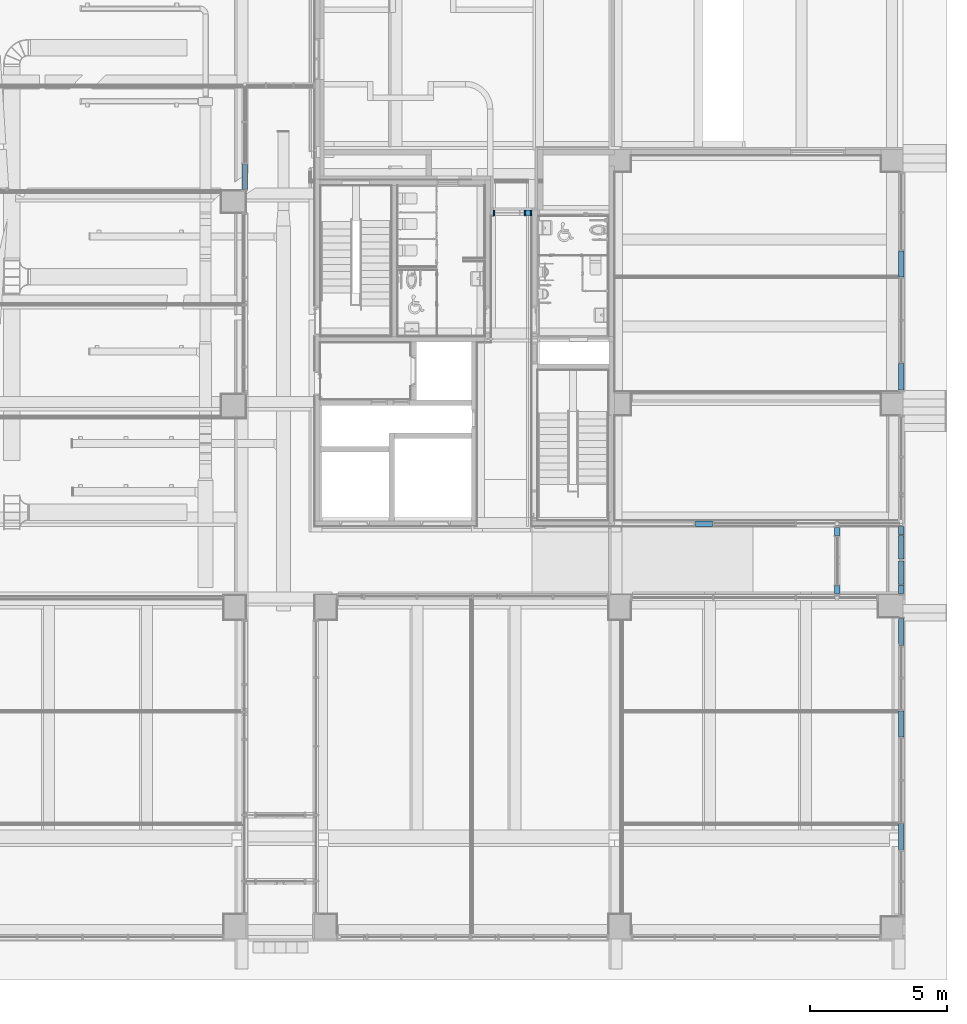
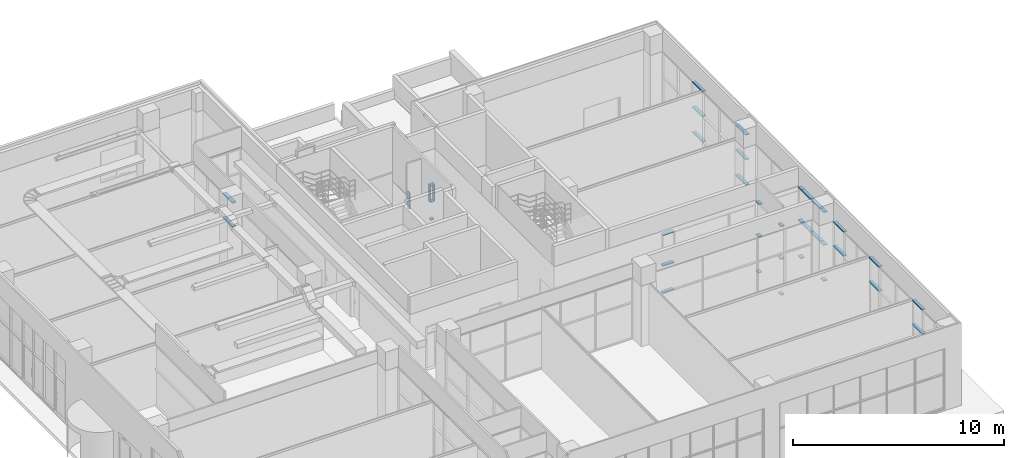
# One storey, part 19 of 100: 39 members, 7 elements without a shape of their own.
"""IFC2X3 building model written with IfcOpenShell, lengths in millimetres."""

from ifc_helpers import new_model, entity, si_unit, converted_unit, derived_unit, direction, frame, origin, origin_2d_with_axis, place, context, subcontext, project, spatial, rectangle, extrude, source, transform, mapped, material, type_object, type_shapes, element, aggregate, save


model = new_model("IFC2X3")

# Units and contexts
model_context = context("Model", 3, precision=0.01, world=origin(), true_north=direction((6.123031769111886e-17, 1.0)))
body_context = subcontext(model_context, "Body", "Model", "MODEL_VIEW")
ifc_project = project(units=[si_unit("LENGTHUNIT", "METRE", prefix="MILLI"), si_unit("AREAUNIT", "SQUARE_METRE"), si_unit("VOLUMEUNIT", "CUBIC_METRE"), converted_unit("PLANEANGLEUNIT", "DEGREE", entity("IfcRatioMeasure", 0.017453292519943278), si_unit("PLANEANGLEUNIT", "RADIAN"), dimensions=[0, 0, 0, 0, 0, 0, 0]), si_unit("MASSUNIT", "GRAM", prefix="KILO"), derived_unit("MASSDENSITYUNIT", [(si_unit("MASSUNIT", "GRAM", prefix="KILO"), 1), (si_unit("LENGTHUNIT", "METRE"), -3)]), derived_unit("MOMENTOFINERTIAUNIT", [(si_unit("LENGTHUNIT", "METRE"), 4)]), si_unit("TIMEUNIT", "SECOND"), si_unit("FREQUENCYUNIT", "HERTZ"), si_unit("THERMODYNAMICTEMPERATUREUNIT", "DEGREE_CELSIUS"), derived_unit("THERMALTRANSMITTANCEUNIT", [(si_unit("MASSUNIT", "GRAM", prefix="KILO"), 1), (si_unit("THERMODYNAMICTEMPERATUREUNIT", "KELVIN"), -1), (si_unit("TIMEUNIT", "SECOND"), -3)]), derived_unit("VOLUMETRICFLOWRATEUNIT", [(si_unit("LENGTHUNIT", "METRE"), 3), (si_unit("TIMEUNIT", "SECOND"), -1)]), derived_unit("MASSFLOWRATEUNIT", [(si_unit("MASSUNIT", "GRAM", prefix="KILO"), 1), (si_unit("TIMEUNIT", "SECOND"), -1)]), derived_unit("ROTATIONALFREQUENCYUNIT", [(si_unit("TIMEUNIT", "SECOND"), -1)]), si_unit("ELECTRICCURRENTUNIT", "AMPERE"), si_unit("ELECTRICVOLTAGEUNIT", "VOLT"), si_unit("POWERUNIT", "WATT"), si_unit("FORCEUNIT", "NEWTON", prefix="KILO"), si_unit("ILLUMINANCEUNIT", "LUX"), si_unit("LUMINOUSFLUXUNIT", "LUMEN"), si_unit("LUMINOUSINTENSITYUNIT", "CANDELA"), derived_unit("USERDEFINED", [(si_unit("MASSUNIT", "GRAM", prefix="KILO"), -1), (si_unit("LENGTHUNIT", "METRE"), -2), (si_unit("TIMEUNIT", "SECOND"), 3), (si_unit("LUMINOUSFLUXUNIT", "LUMEN"), 1)]), derived_unit("SOUNDPOWERUNIT", [(si_unit("MASSUNIT", "GRAM", prefix="KILO"), 1), (si_unit("LENGTHUNIT", "METRE"), 2), (si_unit("TIMEUNIT", "SECOND"), -3)]), derived_unit("SOUNDPRESSUREUNIT", [(si_unit("MASSUNIT", "GRAM", prefix="KILO"), 1), (si_unit("LENGTHUNIT", "METRE"), -1), (si_unit("TIMEUNIT", "SECOND"), -2)]), derived_unit("LINEARVELOCITYUNIT", [(si_unit("LENGTHUNIT", "METRE"), 1), (si_unit("TIMEUNIT", "SECOND"), -1)]), si_unit("PRESSUREUNIT", "PASCAL"), derived_unit("USERDEFINED", [(si_unit("LENGTHUNIT", "METRE"), -2), (si_unit("MASSUNIT", "GRAM", prefix="KILO"), 1), (si_unit("TIMEUNIT", "SECOND"), -2)]), derived_unit("LINEARFORCEUNIT", [(si_unit("MASSUNIT", "GRAM", prefix="KILO"), 1), (si_unit("LENGTHUNIT", "METRE"), 1), (si_unit("TIMEUNIT", "SECOND"), -2), (si_unit("LENGTHUNIT", "METRE"), -1)]), derived_unit("PLANARFORCEUNIT", [(si_unit("MASSUNIT", "GRAM", prefix="KILO"), 1), (si_unit("LENGTHUNIT", "METRE"), 1), (si_unit("TIMEUNIT", "SECOND"), -2), (si_unit("LENGTHUNIT", "METRE"), -2)])], contexts=[model_context])

# Site, building, storey
site_placement = place(None, frame((-14167.972527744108, -657.2125860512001, 0.0)))
site = spatial("IfcSite", under=ifc_project, at=site_placement, Name="Default", CompositionType="ELEMENT")
building_placement = place(site_placement, origin())
building = spatial("IfcBuilding", under=site, at=building_placement, Name="Sample Building", CompositionType="ELEMENT")
storey_placement = place(building_placement, origin())
storey = spatial("IfcBuildingStorey", under=building, at=storey_placement, Name="지상 1층", CompositionType="ELEMENT", Elevation=0.0)

# Curtain wall, member
curtain_wall_type = type_object("IfcCurtainWallType", Name="커튼월:CW112-스테인리스 스틸 커튼월", PredefinedType="NOTDEFINED")
curtain_wall_1_placement = place(storey_placement, origin())
curtain_wall_1 = element("IfcCurtainWall", 1, at=curtain_wall_1_placement, inside=storey, type_object=curtain_wall_type, Name="커튼월:CW112-스테인리스 스틸 커튼월", ObjectType="커튼월:CW112-스테인리스 스틸 커튼월")
ifc_material = material(Name="<Unnamed>")
member_type_1 = type_object("IfcMemberType", Name="직사각형 멀리언:CW200-직사각형 멀리언 50x200mm", PredefinedType="MULLION", material=ifc_material)
shared_shape_1 = source(origin(), body_context, "Body", "SweptSolid", [
    extrude(rectangle(XDim=200.0, YDim=50.0, at=origin_2d_with_axis()), frame((-25.0, 0.0, -925.0), z_axis=(0.0, 0.0, 1.0), x_axis=(0.0, -1.0, 0.0)), (0.0, 0.0, 1.0), 924.9999999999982),
])
type_shapes(member_type_1, [shared_shape_1])
member_1_placement = place(curtain_wall_1_placement, frame((27522.955141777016, 28732.21230799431, 3600.0), z_axis=(0.0, 1.0, 0.0), x_axis=(0.0, 0.0, 1.0)))
member_1 = element("IfcMember", 2, at=member_1_placement, type_object=member_type_1, material=ifc_material, Name="직사각형 멀리언:CW200-직사각형 멀리언 50x200mm", ObjectType="직사각형 멀리언:CW200-직사각형 멀리언 50x200mm", context=body_context, shape_type="MappedRepresentation", body=[
    mapped(shared_shape_1, transform((0.0, 0.0, 0.0), scale=1.0)),
])

# Curtain wall, members
curtain_wall_2_placement = place(storey_placement, origin())
curtain_wall_2 = element("IfcCurtainWall", 3, at=curtain_wall_2_placement, inside=storey, type_object=curtain_wall_type, Name="커튼월:CW112-스테인리스 스틸 커튼월", ObjectType="커튼월:CW112-스테인리스 스틸 커튼월")
member_type_2 = type_object("IfcMemberType", Name="직사각형 멀리언:CW200-직사각형 멀리언 50x200mm", PredefinedType="MULLION", material=ifc_material)
shared_shape_2 = source(origin(), body_context, "Body", "SweptSolid", [
    extrude(rectangle(XDim=200.0, YDim=50.0, at=origin_2d_with_axis()), frame((-25.0, 0.0, -950.0), z_axis=(0.0, 0.0, 1.0), x_axis=(0.0, -1.0, 0.0)), (0.0, 0.0, 1.0), 949.9999999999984),
])
type_shapes(member_type_2, [shared_shape_2])
member_2_placement = place(curtain_wall_2_placement, frame((51405.46382893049, 4742.177624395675, 3600.0), z_axis=(0.0, 1.0, 0.0), x_axis=(0.0, 0.0, 1.0)))
member_2 = element("IfcMember", 4, at=member_2_placement, type_object=member_type_2, material=ifc_material, Name="직사각형 멀리언:CW200-직사각형 멀리언 50x200mm", ObjectType="직사각형 멀리언:CW200-직사각형 멀리언 50x200mm", context=body_context, shape_type="MappedRepresentation", body=[
    mapped(shared_shape_2, transform((0.0, 0.0, 0.0), scale=1.0)),
])
member_3_placement = place(curtain_wall_2_placement, frame((51405.46382893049, 8842.177624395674, 3600.0), z_axis=(0.0, 1.0, 0.0), x_axis=(0.0, 0.0, 1.0)))
member_3 = element("IfcMember", 5, at=member_3_placement, type_object=member_type_2, material=ifc_material, Name="직사각형 멀리언:CW200-직사각형 멀리언 50x200mm", ObjectType="직사각형 멀리언:CW200-직사각형 멀리언 50x200mm", context=body_context, shape_type="MappedRepresentation", body=[
    mapped(shared_shape_2, transform((0.0, 0.0, 0.0), scale=1.0)),
])

# Curtain wall, member
curtain_wall_3_placement = place(storey_placement, origin())
curtain_wall_3 = element("IfcCurtainWall", 6, at=curtain_wall_3_placement, inside=storey, type_object=curtain_wall_type, Name="커튼월:CW112-스테인리스 스틸 커튼월", ObjectType="커튼월:CW112-스테인리스 스틸 커튼월")
member_4_placement = place(curtain_wall_3_placement, frame((51405.48121489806, 25572.177712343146, 3600.0), z_axis=(0.0, 1.0, 0.0), x_axis=(0.0, 0.0, 1.0)))
member_4 = element("IfcMember", 7, at=member_4_placement, type_object=member_type_2, material=ifc_material, Name="직사각형 멀리언:CW200-직사각형 멀리언 50x200mm", ObjectType="직사각형 멀리언:CW200-직사각형 멀리언 50x200mm", context=body_context, shape_type="MappedRepresentation", body=[
    mapped(shared_shape_2, transform((0.0, 0.0, 0.0), scale=1.0)),
])

# Member
member_type_3 = type_object("IfcMemberType", Name="직사각형 멀리언:CW200-직사각형 멀리언 50x200mm", PredefinedType="MULLION", material=ifc_material)
shared_shape_3 = source(origin(), body_context, "Body", "SweptSolid", [
    extrude(rectangle(XDim=200.0, YDim=50.0, at=origin_2d_with_axis()), frame((0.0, 0.0, -950.0), z_axis=(0.0, 0.0, 1.0), x_axis=(0.0, -1.0, 0.0)), (0.0, 0.0, 1.0), 949.9999999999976),
])
type_shapes(member_type_3, [shared_shape_3])
member_5_placement = place(curtain_wall_2_placement, frame((51405.46382893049, 4742.177624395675, 2180.0), z_axis=(0.0, 1.0, 0.0), x_axis=(0.0, 0.0, 1.0)))
member_5 = element("IfcMember", 8, at=member_5_placement, type_object=member_type_3, material=ifc_material, Name="직사각형 멀리언:CW200-직사각형 멀리언 50x200mm", ObjectType="직사각형 멀리언:CW200-직사각형 멀리언 50x200mm", context=body_context, shape_type="MappedRepresentation", body=[
    mapped(shared_shape_3, transform((0.0, 0.0, 0.0), scale=1.0)),
])

member_6_placement = place(curtain_wall_2_placement, frame((51405.46382893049, 8842.177624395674, 2180.0), z_axis=(0.0, 1.0, 0.0), x_axis=(0.0, 0.0, 1.0)))
member_6 = element("IfcMember", 9, at=member_6_placement, type_object=member_type_3, material=ifc_material, Name="직사각형 멀리언:CW200-직사각형 멀리언 50x200mm", ObjectType="직사각형 멀리언:CW200-직사각형 멀리언 50x200mm", context=body_context, shape_type="MappedRepresentation", body=[
    mapped(shared_shape_3, transform((0.0, 0.0, 0.0), scale=1.0)),
])

member_7_placement = place(curtain_wall_3_placement, frame((51405.48121489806, 25572.177712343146, 680.0), z_axis=(0.0, 1.0, 0.0), x_axis=(0.0, 0.0, 1.0)))
member_7 = element("IfcMember", 10, at=member_7_placement, type_object=member_type_3, material=ifc_material, Name="직사각형 멀리언:CW200-직사각형 멀리언 50x200mm", ObjectType="직사각형 멀리언:CW200-직사각형 멀리언 50x200mm", context=body_context, shape_type="MappedRepresentation", body=[
    mapped(shared_shape_3, transform((0.0, 0.0, 0.0), scale=1.0)),
])

member_8_placement = place(curtain_wall_3_placement, frame((51405.48121489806, 25572.177712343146, 2140.0), z_axis=(0.0, 1.0, 0.0), x_axis=(0.0, 0.0, 1.0)))
member_8 = element("IfcMember", 11, at=member_8_placement, type_object=member_type_3, material=ifc_material, Name="직사각형 멀리언:CW200-직사각형 멀리언 50x200mm", ObjectType="직사각형 멀리언:CW200-직사각형 멀리언 50x200mm", context=body_context, shape_type="MappedRepresentation", body=[
    mapped(shared_shape_3, transform((0.0, 0.0, 0.0), scale=1.0)),
])

member_type_4 = type_object("IfcMemberType", Name="직사각형 멀리언:CW200-직사각형 멀리언 50x200mm", PredefinedType="MULLION", material=ifc_material)
shared_shape_4 = source(origin(), body_context, "Body", "SweptSolid", [
    extrude(rectangle(XDim=200.0, YDim=50.0, at=origin_2d_with_axis()), frame((0.0, 0.0, -925.0), z_axis=(0.0, 0.0, 1.0), x_axis=(0.0, -1.0, 0.0)), (0.0, 0.0, 1.0), 924.9999999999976),
])
type_shapes(member_type_4, [shared_shape_4])
member_9_placement = place(curtain_wall_1_placement, frame((27522.955141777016, 28732.21230799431, 2180.0), z_axis=(0.0, 1.0, 0.0), x_axis=(0.0, 0.0, 1.0)))
member_9 = element("IfcMember", 12, at=member_9_placement, type_object=member_type_4, material=ifc_material, Name="직사각형 멀리언:CW200-직사각형 멀리언 50x200mm", ObjectType="직사각형 멀리언:CW200-직사각형 멀리언 50x200mm", context=body_context, shape_type="MappedRepresentation", body=[
    mapped(shared_shape_4, transform((0.0, 0.0, 0.0), scale=1.0)),
])

aggregate(curtain_wall_1, [member_1, member_9])

member_type_5 = type_object("IfcMemberType", Name="직사각형 멀리언:CW200-직사각형 멀리언 50x200mm", PredefinedType="MULLION", material=ifc_material)
shared_shape_5 = source(origin(), body_context, "Body", "SweptSolid", [
    extrude(rectangle(XDim=200.0, YDim=50.0, at=origin_2d_with_axis()), frame((0.0, 0.0, -975.0), z_axis=(0.0, 0.0, 1.0), x_axis=(0.0, -1.0, 0.0)), (0.0, 0.0, 1.0), 975.0000000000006),
])
type_shapes(member_type_5, [shared_shape_5])
member_10_placement = place(curtain_wall_2_placement, frame((51405.4638289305, 12207.213038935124, 2180.0), z_axis=(0.0, 1.0, 0.0), x_axis=(0.0, 0.0, 1.0)))
member_10 = element("IfcMember", 13, at=member_10_placement, type_object=member_type_5, material=ifc_material, Name="직사각형 멀리언:CW200-직사각형 멀리언 50x200mm", ObjectType="직사각형 멀리언:CW200-직사각형 멀리언 50x200mm", context=body_context, shape_type="MappedRepresentation", body=[
    mapped(shared_shape_5, transform((0.0, 0.0, 0.0), scale=1.0)),
])

member_11_placement = place(curtain_wall_3_placement, frame((51405.481214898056, 21482.17771234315, 680.0), z_axis=(0.0, 1.0, 0.0), x_axis=(0.0, 0.0, 1.0)))
member_11 = element("IfcMember", 14, at=member_11_placement, type_object=member_type_5, material=ifc_material, Name="직사각형 멀리언:CW200-직사각형 멀리언 50x200mm", ObjectType="직사각형 멀리언:CW200-직사각형 멀리언 50x200mm", context=body_context, shape_type="MappedRepresentation", body=[
    mapped(shared_shape_5, transform((0.0, 0.0, 0.0), scale=1.0)),
])

member_12_placement = place(curtain_wall_3_placement, frame((51405.481214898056, 21482.17771234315, 2140.0), z_axis=(0.0, 1.0, 0.0), x_axis=(0.0, 0.0, 1.0)))
member_12 = element("IfcMember", 15, at=member_12_placement, type_object=member_type_5, material=ifc_material, Name="직사각형 멀리언:CW200-직사각형 멀리언 50x200mm", ObjectType="직사각형 멀리언:CW200-직사각형 멀리언 50x200mm", context=body_context, shape_type="MappedRepresentation", body=[
    mapped(shared_shape_5, transform((0.0, 0.0, 0.0), scale=1.0)),
])

member_type_6 = type_object("IfcMemberType", Name="직사각형 멀리언:CW200-직사각형 멀리언 50x200mm", PredefinedType="MULLION", material=ifc_material)
shared_shape_6 = source(origin(), body_context, "Body", "SweptSolid", [
    extrude(rectangle(XDim=200.0, YDim=50.0, at=origin_2d_with_axis()), frame((-25.0, 0.0, -975.0), z_axis=(0.0, 0.0, 1.0), x_axis=(0.0, -1.0, 0.0)), (0.0, 0.0, 1.0), 975.0000000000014),
])
type_shapes(member_type_6, [shared_shape_6])
member_13_placement = place(curtain_wall_2_placement, frame((51405.4638289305, 12207.213038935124, 3600.0), z_axis=(0.0, 1.0, 0.0), x_axis=(0.0, 0.0, 1.0)))
member_13 = element("IfcMember", 16, at=member_13_placement, type_object=member_type_6, material=ifc_material, Name="직사각형 멀리언:CW200-직사각형 멀리언 50x200mm", ObjectType="직사각형 멀리언:CW200-직사각형 멀리언 50x200mm", context=body_context, shape_type="MappedRepresentation", body=[
    mapped(shared_shape_6, transform((0.0, 0.0, 0.0), scale=1.0)),
])

aggregate(curtain_wall_2, [member_13, member_2, member_3, member_5, member_6, member_10])

member_14_placement = place(curtain_wall_3_placement, frame((51405.481214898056, 21482.17771234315, 3600.0), z_axis=(0.0, 1.0, 0.0), x_axis=(0.0, 0.0, 1.0)))
member_14 = element("IfcMember", 17, at=member_14_placement, type_object=member_type_6, material=ifc_material, Name="직사각형 멀리언:CW200-직사각형 멀리언 50x200mm", ObjectType="직사각형 멀리언:CW200-직사각형 멀리언 50x200mm", context=body_context, shape_type="MappedRepresentation", body=[
    mapped(shared_shape_6, transform((0.0, 0.0, 0.0), scale=1.0)),
])

aggregate(curtain_wall_3, [member_11, member_12, member_14, member_7, member_8, member_4])

# Curtain wall, members
curtain_wall_4_placement = place(storey_placement, origin())
curtain_wall_4 = element("IfcCurtainWall", 18, at=curtain_wall_4_placement, inside=storey, type_object=curtain_wall_type, Name="커튼월:CW112-스테인리스 스틸 커튼월", ObjectType="커튼월:CW112-스테인리스 스틸 커튼월")
member_type_7 = type_object("IfcMemberType", Name="직사각형 멀리언:CW200-직사각형 멀리언 50x200mm", PredefinedType="MULLION", material=ifc_material)
shared_shape_7 = source(origin(), body_context, "Body", "SweptSolid", [
    extrude(rectangle(XDim=200.0, YDim=50.0, at=origin_2d_with_axis()), frame((-25.0, 0.0, -300.0), z_axis=(0.0, 0.0, 1.0), x_axis=(0.0, -1.0, 0.0)), (0.0, 0.0, 1.0), 299.9999999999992),
])
type_shapes(member_type_7, [shared_shape_7])
member_15_placement = place(curtain_wall_4_placement, frame((51405.46382893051, 13107.212383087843, -420.0), z_axis=(0.0, -1.0, 0.0), x_axis=(0.0, 0.0, -1.0)))
member_15 = element("IfcMember", 19, at=member_15_placement, type_object=member_type_7, material=ifc_material, Name="직사각형 멀리언:CW200-직사각형 멀리언 50x200mm", ObjectType="직사각형 멀리언:CW200-직사각형 멀리언 50x200mm", context=body_context, shape_type="MappedRepresentation", body=[
    mapped(shared_shape_7, transform((0.0, 0.0, 0.0), scale=1.0)),
])
member_16_placement = place(curtain_wall_4_placement, frame((51405.46382893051, 15257.212383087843, -420.0), z_axis=(0.0, -1.0, 0.0), x_axis=(0.0, 0.0, -1.0)))
member_16 = element("IfcMember", 20, at=member_16_placement, type_object=member_type_7, material=ifc_material, Name="직사각형 멀리언:CW200-직사각형 멀리언 50x200mm", ObjectType="직사각형 멀리언:CW200-직사각형 멀리언 50x200mm", context=body_context, shape_type="MappedRepresentation", body=[
    mapped(shared_shape_7, transform((0.0, 0.0, 0.0), scale=1.0)),
])
member_type_8 = type_object("IfcMemberType", Name="직사각형 멀리언:CW200-직사각형 멀리언 50x200mm", PredefinedType="MULLION", material=ifc_material)
shared_shape_8 = source(origin(), body_context, "Body", "SweptSolid", [
    extrude(rectangle(XDim=200.0, YDim=50.0, at=origin_2d_with_axis()), frame((-25.0, 0.0, -325.0), z_axis=(0.0, 0.0, 1.0), x_axis=(0.0, -1.0, 0.0)), (0.0, 0.0, 1.0), 324.9999999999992),
])
type_shapes(member_type_8, [shared_shape_8])
member_17_placement = place(curtain_wall_4_placement, frame((51405.46382893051, 13432.212383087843, 3600.0), z_axis=(0.0, 1.0, 0.0), x_axis=(0.0, 0.0, 1.0)))
member_17 = element("IfcMember", 21, at=member_17_placement, type_object=member_type_8, material=ifc_material, Name="직사각형 멀리언:CW200-직사각형 멀리언 50x200mm", ObjectType="직사각형 멀리언:CW200-직사각형 멀리언 50x200mm", context=body_context, shape_type="MappedRepresentation", body=[
    mapped(shared_shape_8, transform((0.0, 0.0, 0.0), scale=1.0)),
])
member_type_9 = type_object("IfcMemberType", Name="직사각형 멀리언:CW200-직사각형 멀리언 50x200mm", PredefinedType="MULLION", material=ifc_material)
shared_shape_9 = source(origin(), body_context, "Body", "SweptSolid", [
    extrude(rectangle(XDim=200.0, YDim=50.0, at=origin_2d_with_axis()), frame((-25.0, 0.0, -870.0), z_axis=(0.0, 0.0, 1.0), x_axis=(0.0, -1.0, 0.0)), (0.0, 0.0, 1.0), 870.0000000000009),
])
type_shapes(member_type_9, [shared_shape_9])
member_18_placement = place(curtain_wall_4_placement, frame((51405.46382893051, 14302.212383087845, 3600.0), z_axis=(0.0, 1.0, 0.0), x_axis=(0.0, 0.0, 1.0)))
member_18 = element("IfcMember", 22, at=member_18_placement, type_object=member_type_9, material=ifc_material, Name="직사각형 멀리언:CW200-직사각형 멀리언 50x200mm", ObjectType="직사각형 멀리언:CW200-직사각형 멀리언 50x200mm", context=body_context, shape_type="MappedRepresentation", body=[
    mapped(shared_shape_9, transform((0.0, 0.0, 0.0), scale=1.0)),
])
member_type_10 = type_object("IfcMemberType", Name="직사각형 멀리언:CW200-직사각형 멀리언 50x200mm", PredefinedType="MULLION", material=ifc_material)
shared_shape_10 = source(origin(), body_context, "Body", "SweptSolid", [
    extrude(rectangle(XDim=200.0, YDim=50.0, at=origin_2d_with_axis()), frame((-25.0, 0.0, -870.0), z_axis=(0.0, 0.0, 1.0), x_axis=(0.0, -1.0, 0.0)), (0.0, 0.0, 1.0), 869.9999999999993),
])
type_shapes(member_type_10, [shared_shape_10])
member_19_placement = place(curtain_wall_4_placement, frame((51405.46382893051, 15232.212383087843, 3600.0), z_axis=(0.0, 1.0, 0.0), x_axis=(0.0, 0.0, 1.0)))
member_19 = element("IfcMember", 23, at=member_19_placement, type_object=member_type_10, material=ifc_material, Name="직사각형 멀리언:CW200-직사각형 멀리언 50x200mm", ObjectType="직사각형 멀리언:CW200-직사각형 멀리언 50x200mm", context=body_context, shape_type="MappedRepresentation", body=[
    mapped(shared_shape_10, transform((0.0, 0.0, 0.0), scale=1.0)),
])
member_type_11 = type_object("IfcMemberType", Name="직사각형 멀리언:CW200-직사각형 멀리언 50x200mm", PredefinedType="MULLION", material=ifc_material)
shared_shape_11 = source(origin(), body_context, "Body", "SweptSolid", [
    extrude(rectangle(XDim=200.0, YDim=50.0, at=origin_2d_with_axis()), frame((-25.0, 0.0, -324.965329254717), z_axis=(0.0, 0.0, 1.0), x_axis=(0.0, -1.0, 0.0)), (0.0, 0.0, 1.0), 324.96532925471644),
])
type_shapes(member_type_11, [shared_shape_11])
member_20_placement = place(curtain_wall_4_placement, frame((51405.46382893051, 15557.17771234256, 3600.0), z_axis=(0.0, 1.0, 0.0), x_axis=(0.0, 0.0, 1.0)))
member_20 = element("IfcMember", 24, at=member_20_placement, type_object=member_type_11, material=ifc_material, Name="직사각형 멀리언:CW200-직사각형 멀리언 50x200mm", ObjectType="직사각형 멀리언:CW200-직사각형 멀리언 50x200mm", context=body_context, shape_type="MappedRepresentation", body=[
    mapped(shared_shape_11, transform((0.0, 0.0, 0.0), scale=1.0)),
])
member_type_12 = type_object("IfcMemberType", Name="직사각형 멀리언:CW200-직사각형 멀리언 50x200mm", PredefinedType="MULLION", material=ifc_material)
shared_shape_12 = source(origin(), body_context, "Body", "SweptSolid", [
    extrude(rectangle(XDim=200.0, YDim=50.0, at=origin_2d_with_axis()), frame((0.0, 0.0, -300.0), z_axis=(0.0, 0.0, 1.0), x_axis=(0.0, -1.0, 0.0)), (0.0, 0.0, 1.0), 299.9999999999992),
])
type_shapes(member_type_12, [shared_shape_12])
member_21_placement = place(curtain_wall_4_placement, frame((51405.46382893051, 13407.21238308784, 1680.0), z_axis=(0.0, 1.0, 0.0), x_axis=(0.0, 0.0, 1.0)))
member_21 = element("IfcMember", 25, at=member_21_placement, type_object=member_type_12, material=ifc_material, Name="직사각형 멀리언:CW200-직사각형 멀리언 50x200mm", ObjectType="직사각형 멀리언:CW200-직사각형 멀리언 50x200mm", context=body_context, shape_type="MappedRepresentation", body=[
    mapped(shared_shape_12, transform((0.0, 0.0, 0.0), scale=1.0)),
])
member_22_placement = place(curtain_wall_4_placement, frame((51405.46382893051, 15557.17771234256, 1680.0), z_axis=(0.0, 1.0, 0.0), x_axis=(0.0, 0.0, 1.0)))
member_22 = element("IfcMember", 26, at=member_22_placement, type_object=member_type_12, material=ifc_material, Name="직사각형 멀리언:CW200-직사각형 멀리언 50x200mm", ObjectType="직사각형 멀리언:CW200-직사각형 멀리언 50x200mm", context=body_context, shape_type="MappedRepresentation", body=[
    mapped(shared_shape_12, transform((0.0, 0.0, 0.0), scale=1.0)),
])
member_type_13 = type_object("IfcMemberType", Name="직사각형 멀리언:CW200-직사각형 멀리언 50x200mm", PredefinedType="MULLION", material=ifc_material)
shared_shape_13 = source(origin(), body_context, "Body", "SweptSolid", [
    extrude(rectangle(XDim=200.0, YDim=50.0, at=origin_2d_with_axis()), frame((0.0, 0.0, -845.0), z_axis=(0.0, 0.0, 1.0), x_axis=(0.0, -1.0, 0.0)), (0.0, 0.0, 1.0), 845.0000000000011),
])
type_shapes(member_type_13, [shared_shape_13])
member_23_placement = place(curtain_wall_4_placement, frame((51405.46382893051, 14302.212383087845, 1680.0), z_axis=(0.0, 1.0, 0.0), x_axis=(0.0, 0.0, 1.0)))
member_23 = element("IfcMember", 27, at=member_23_placement, type_object=member_type_13, material=ifc_material, Name="직사각형 멀리언:CW200-직사각형 멀리언 50x200mm", ObjectType="직사각형 멀리언:CW200-직사각형 멀리언 50x200mm", context=body_context, shape_type="MappedRepresentation", body=[
    mapped(shared_shape_13, transform((0.0, 0.0, 0.0), scale=1.0)),
])
member_24_placement = place(curtain_wall_4_placement, frame((51405.46382893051, 15207.21238308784, 1680.0), z_axis=(0.0, 1.0, 0.0), x_axis=(0.0, 0.0, 1.0)))
member_24 = element("IfcMember", 28, at=member_24_placement, type_object=member_type_13, material=ifc_material, Name="직사각형 멀리언:CW200-직사각형 멀리언 50x200mm", ObjectType="직사각형 멀리언:CW200-직사각형 멀리언 50x200mm", context=body_context, shape_type="MappedRepresentation", body=[
    mapped(shared_shape_13, transform((0.0, 0.0, 0.0), scale=1.0)),
])
aggregate(curtain_wall_4, [member_15, member_17, member_18, member_19, member_16, member_20, member_21, member_23, member_24, member_22])

curtain_wall_5_placement = place(storey_placement, origin())
curtain_wall_5 = element("IfcCurtainWall", 29, at=curtain_wall_5_placement, inside=storey, type_object=curtain_wall_type, Name="커튼월:CW112-스테인리스 스틸 커튼월", ObjectType="커튼월:CW112-스테인리스 스틸 커튼월")
member_type_14 = type_object("IfcMemberType", Name="직사각형 멀리언:CW200-직사각형 멀리언 50x200mm", PredefinedType="MULLION", material=ifc_material)
shared_shape_14 = source(origin(), body_context, "Body", "SweptSolid", [
    extrude(rectangle(XDim=200.0, YDim=50.0, at=origin_2d_with_axis()), frame((-25.0, 0.0, -175.0), z_axis=(0.0, 0.0, 1.0), x_axis=(0.0, -1.0, 0.0)), (0.0, 0.0, 1.0), 175.0000000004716),
])
type_shapes(member_type_14, [shared_shape_14])
member_25_placement = place(curtain_wall_5_placement, frame((37917.96379814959, 26957.21229514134, 1550.0), z_axis=(1.0, 0.0, 0.0), x_axis=(0.0, 0.0, 1.0)))
member_25 = element("IfcMember", 30, at=member_25_placement, type_object=member_type_14, material=ifc_material, Name="직사각형 멀리언:CW200-직사각형 멀리언 50x200mm", ObjectType="직사각형 멀리언:CW200-직사각형 멀리언 50x200mm", context=body_context, shape_type="MappedRepresentation", body=[
    mapped(shared_shape_14, transform((0.0, 0.0, 0.0), scale=1.0)),
])
member_type_15 = type_object("IfcMemberType", Name="직사각형 멀리언:CW200-직사각형 멀리언 50x200mm", PredefinedType="MULLION", material=ifc_material)
shared_shape_15 = source(origin(), body_context, "Body", "SweptSolid", [
    extrude(rectangle(XDim=200.0, YDim=50.0, at=origin_2d_with_axis()), frame((-25.0, 0.0, -970.0), z_axis=(0.0, 0.0, 1.0), x_axis=(0.0, -1.0, 0.0)), (0.0, 0.0, 1.0), 970.0000000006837),
])
type_shapes(member_type_15, [shared_shape_15])
member_26_placement = place(curtain_wall_5_placement, frame((36567.97249112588, 26957.212295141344, 1550.0), z_axis=(0.0, 0.0, 1.0), x_axis=(-1.0, 0.0, 0.0)))
member_26 = element("IfcMember", 31, at=member_26_placement, type_object=member_type_15, material=ifc_material, Name="직사각형 멀리언:CW200-직사각형 멀리언 50x200mm", ObjectType="직사각형 멀리언:CW200-직사각형 멀리언 50x200mm", context=body_context, shape_type="MappedRepresentation", body=[
    mapped(shared_shape_15, transform((0.0, 0.0, 0.0), scale=1.0)),
])
member_type_16 = type_object("IfcMemberType", Name="직사각형 멀리언:CW200-직사각형 멀리언 50x200mm", PredefinedType="MULLION", material=ifc_material)
shared_shape_16 = source(origin(), body_context, "Body", "SweptSolid", [
    extrude(rectangle(XDim=200.0, YDim=50.0, at=origin_2d_with_axis()), frame((-25.0, 0.0, -175.0), z_axis=(0.0, 0.0, 1.0), x_axis=(0.0, -1.0, 0.0)), (0.0, 0.0, 1.0), 175.0000000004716),
])
type_shapes(member_type_16, [shared_shape_16])
member_27_placement = place(curtain_wall_5_placement, frame((37742.96379814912, 26957.21229514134, -470.0), z_axis=(-1.0, 0.0, 0.0), x_axis=(0.0, 0.0, -1.0)))
member_27 = element("IfcMember", 32, at=member_27_placement, type_object=member_type_16, material=ifc_material, Name="직사각형 멀리언:CW200-직사각형 멀리언 50x200mm", ObjectType="직사각형 멀리언:CW200-직사각형 멀리언 50x200mm", context=body_context, shape_type="MappedRepresentation", body=[
    mapped(shared_shape_16, transform((0.0, 0.0, 0.0), scale=1.0)),
])
member_type_17 = type_object("IfcMemberType", Name="직사각형 멀리언:CW200-직사각형 멀리언 50x200mm", PredefinedType="MULLION", material=ifc_material)
shared_shape_17 = source(origin(), body_context, "Body", "SweptSolid", [
    extrude(rectangle(XDim=200.0, YDim=50.0, at=origin_2d_with_axis()), frame((-25.0, 0.0, -970.0), z_axis=(0.0, 0.0, 1.0), x_axis=(0.0, -1.0, 0.0)), (0.0, 0.0, 1.0), 970.0000000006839),
])
type_shapes(member_type_17, [shared_shape_17])
member_28_placement = place(curtain_wall_5_placement, frame((37967.96379814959, 26957.21229514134, 580.0), z_axis=(0.0, 0.0, -1.0), x_axis=(1.0, 0.0, 0.0)))
member_28 = element("IfcMember", 33, at=member_28_placement, type_object=member_type_17, material=ifc_material, Name="직사각형 멀리언:CW200-직사각형 멀리언 50x200mm", ObjectType="직사각형 멀리언:CW200-직사각형 멀리언 50x200mm", context=body_context, shape_type="MappedRepresentation", body=[
    mapped(shared_shape_17, transform((0.0, 0.0, 0.0), scale=1.0)),
])
member_type_18 = type_object("IfcMemberType", Name="직사각형 멀리언:CW200-직사각형 멀리언 50x200mm", PredefinedType="MULLION", material=ifc_material)
shared_shape_18 = source(origin(), body_context, "Body", "SweptSolid", [
    extrude(rectangle(XDim=200.0, YDim=50.0, at=origin_2d_with_axis()), frame((0.0, 0.0, -175.0), z_axis=(0.0, 0.0, 1.0), x_axis=(0.0, -1.0, 0.0)), (0.0, 0.0, 1.0), 175.00000000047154),
])
type_shapes(member_type_18, [shared_shape_18])
member_29_placement = place(curtain_wall_5_placement, frame((37917.96379814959, 26957.21229514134, 580.0), z_axis=(1.0, 0.0, 0.0), x_axis=(0.0, 0.0, 1.0)))
member_29 = element("IfcMember", 34, at=member_29_placement, type_object=member_type_18, material=ifc_material, Name="직사각형 멀리언:CW200-직사각형 멀리언 50x200mm", ObjectType="직사각형 멀리언:CW200-직사각형 멀리언 50x200mm", context=body_context, shape_type="MappedRepresentation", body=[
    mapped(shared_shape_18, transform((0.0, 0.0, 0.0), scale=1.0)),
])
member_type_19 = type_object("IfcMemberType", Name="직사각형 멀리언:CW200-직사각형 멀리언 50x200mm", PredefinedType="MULLION", material=ifc_material)
shared_shape_19 = source(origin(), body_context, "Body", "SweptSolid", [
    extrude(rectangle(XDim=200.0, YDim=50.0, at=origin_2d_with_axis()), frame((0.0, 0.0, -970.0), z_axis=(0.0, 0.0, 1.0), x_axis=(0.0, -1.0, 0.0)), (0.0, 0.0, 1.0), 970.0000000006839),
])
type_shapes(member_type_19, [shared_shape_19])
member_30_placement = place(curtain_wall_5_placement, frame((37717.963798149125, 26957.21229514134, 580.0), z_axis=(0.0, 0.0, -1.0), x_axis=(1.0, 0.0, 0.0)))
member_30 = element("IfcMember", 35, at=member_30_placement, type_object=member_type_19, material=ifc_material, Name="직사각형 멀리언:CW200-직사각형 멀리언 50x200mm", ObjectType="직사각형 멀리언:CW200-직사각형 멀리언 50x200mm", context=body_context, shape_type="MappedRepresentation", body=[
    mapped(shared_shape_19, transform((0.0, 0.0, 0.0), scale=1.0)),
])
aggregate(curtain_wall_5, [member_25, member_26, member_27, member_28, member_29, member_30])

curtain_wall_6_placement = place(storey_placement, origin())
curtain_wall_6 = element("IfcCurtainWall", 36, at=curtain_wall_6_placement, inside=storey, type_object=curtain_wall_type, Name="커튼월:CW112-스테인리스 스틸 커튼월", ObjectType="커튼월:CW112-스테인리스 스틸 커튼월")
member_type_20 = type_object("IfcMemberType", Name="직사각형 멀리언:CW200-직사각형 멀리언 50x200mm", PredefinedType="MULLION", material=ifc_material)
shared_shape_20 = source(origin(), body_context, "Body", "SweptSolid", [
    extrude(rectangle(XDim=200.0, YDim=50.0, at=origin_2d_with_axis()), frame((-25.0, 0.0, -275.0), z_axis=(0.0, 0.0, 1.0), x_axis=(0.0, -1.0, 0.0)), (0.0, 0.0, 1.0), 275.00000000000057),
])
type_shapes(member_type_20, [shared_shape_20])
member_31_placement = place(curtain_wall_6_placement, frame((49067.972491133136, 15507.212295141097, -420.0), z_axis=(0.0, 1.0, 0.0), x_axis=(0.0, 0.0, -1.0)))
member_31 = element("IfcMember", 37, at=member_31_placement, type_object=member_type_20, material=ifc_material, Name="직사각형 멀리언:CW200-직사각형 멀리언 50x200mm", ObjectType="직사각형 멀리언:CW200-직사각형 멀리언 50x200mm", context=body_context, shape_type="MappedRepresentation", body=[
    mapped(shared_shape_20, transform((0.0, 0.0, 0.0), scale=1.0)),
])
member_type_21 = type_object("IfcMemberType", Name="직사각형 멀리언:CW200-직사각형 멀리언 50x200mm", PredefinedType="MULLION", material=ifc_material)
shared_shape_21 = source(origin(), body_context, "Body", "SweptSolid", [
    extrude(rectangle(XDim=200.0, YDim=50.0, at=origin_2d_with_axis()), frame((-25.0, 0.0, -300.0), z_axis=(0.0, 0.0, 1.0), x_axis=(0.0, -1.0, 0.0)), (0.0, 0.0, 1.0), 300.00000000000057),
])
type_shapes(member_type_21, [shared_shape_21])
member_32_placement = place(curtain_wall_6_placement, frame((49067.972491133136, 15207.212295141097, 3600.0), z_axis=(0.0, -1.0, 0.0), x_axis=(0.0, 0.0, 1.0)))
member_32 = element("IfcMember", 38, at=member_32_placement, type_object=member_type_21, material=ifc_material, Name="직사각형 멀리언:CW200-직사각형 멀리언 50x200mm", ObjectType="직사각형 멀리언:CW200-직사각형 멀리언 50x200mm", context=body_context, shape_type="MappedRepresentation", body=[
    mapped(shared_shape_21, transform((0.0, 0.0, 0.0), scale=1.0)),
])
member_type_22 = type_object("IfcMemberType", Name="직사각형 멀리언:CW200-직사각형 멀리언 50x200mm", PredefinedType="MULLION", material=ifc_material)
shared_shape_22 = source(origin(), body_context, "Body", "SweptSolid", [
    extrude(rectangle(XDim=200.0, YDim=50.0, at=origin_2d_with_axis()), frame((0.0, 0.0, -275.0), z_axis=(0.0, 0.0, 1.0), x_axis=(0.0, -1.0, 0.0)), (0.0, 0.0, 1.0), 275.00000000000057),
])
type_shapes(member_type_22, [shared_shape_22])
member_33_placement = place(curtain_wall_6_placement, frame((49067.972491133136, 15232.212295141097, 1680.0), z_axis=(0.0, -1.0, 0.0), x_axis=(0.0, 0.0, 1.0)))
member_33 = element("IfcMember", 39, at=member_33_placement, type_object=member_type_22, material=ifc_material, Name="직사각형 멀리언:CW200-직사각형 멀리언 50x200mm", ObjectType="직사각형 멀리언:CW200-직사각형 멀리언 50x200mm", context=body_context, shape_type="MappedRepresentation", body=[
    mapped(shared_shape_22, transform((0.0, 0.0, 0.0), scale=1.0)),
])
member_type_23 = type_object("IfcMemberType", Name="직사각형 멀리언:CW200-직사각형 멀리언 50x200mm", PredefinedType="MULLION", material=ifc_material)
shared_shape_23 = source(origin(), body_context, "Body", "SweptSolid", [
    extrude(rectangle(XDim=200.0, YDim=50.0, at=origin_2d_with_axis()), frame((-25.0, 0.0, -300.0), z_axis=(0.0, 0.0, 1.0), x_axis=(0.0, -1.0, 0.0)), (0.0, 0.0, 1.0), 300.00000000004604),
])
type_shapes(member_type_23, [shared_shape_23])
member_34_placement = place(curtain_wall_6_placement, frame((49067.97249113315, 13107.212383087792, 3600.0), z_axis=(0.0, -1.0, 0.0), x_axis=(0.0, 0.0, 1.0)))
member_34 = element("IfcMember", 40, at=member_34_placement, type_object=member_type_23, material=ifc_material, Name="직사각형 멀리언:CW200-직사각형 멀리언 50x200mm", ObjectType="직사각형 멀리언:CW200-직사각형 멀리언 50x200mm", context=body_context, shape_type="MappedRepresentation", body=[
    mapped(shared_shape_23, transform((0.0, 0.0, 0.0), scale=1.0)),
])
member_type_24 = type_object("IfcMemberType", Name="직사각형 멀리언:CW200-직사각형 멀리언 50x200mm", PredefinedType="MULLION", material=ifc_material)
shared_shape_24 = source(origin(), body_context, "Body", "SweptSolid", [
    extrude(rectangle(XDim=200.0, YDim=50.0, at=origin_2d_with_axis()), frame((-25.0, 0.0, -275.0), z_axis=(0.0, 0.0, 1.0), x_axis=(0.0, -1.0, 0.0)), (0.0, 0.0, 1.0), 275.00000000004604),
])
type_shapes(member_type_24, [shared_shape_24])
member_35_placement = place(curtain_wall_6_placement, frame((49067.972491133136, 13382.212383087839, -420.0), z_axis=(0.0, 1.0, 0.0), x_axis=(0.0, 0.0, -1.0)))
member_35 = element("IfcMember", 41, at=member_35_placement, type_object=member_type_24, material=ifc_material, Name="직사각형 멀리언:CW200-직사각형 멀리언 50x200mm", ObjectType="직사각형 멀리언:CW200-직사각형 멀리언 50x200mm", context=body_context, shape_type="MappedRepresentation", body=[
    mapped(shared_shape_24, transform((0.0, 0.0, 0.0), scale=1.0)),
])
member_type_25 = type_object("IfcMemberType", Name="직사각형 멀리언:CW200-직사각형 멀리언 50x200mm", PredefinedType="MULLION", material=ifc_material)
shared_shape_25 = source(origin(), body_context, "Body", "SweptSolid", [
    extrude(rectangle(XDim=200.0, YDim=50.0, at=origin_2d_with_axis()), frame((0.0, 0.0, -275.0), z_axis=(0.0, 0.0, 1.0), x_axis=(0.0, -1.0, 0.0)), (0.0, 0.0, 1.0), 275.00000000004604),
])
type_shapes(member_type_25, [shared_shape_25])
member_36_placement = place(curtain_wall_6_placement, frame((49067.97249113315, 13107.212383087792, 1680.0), z_axis=(0.0, -1.0, 0.0), x_axis=(0.0, 0.0, 1.0)))
member_36 = element("IfcMember", 42, at=member_36_placement, type_object=member_type_25, material=ifc_material, Name="직사각형 멀리언:CW200-직사각형 멀리언 50x200mm", ObjectType="직사각형 멀리언:CW200-직사각형 멀리언 50x200mm", context=body_context, shape_type="MappedRepresentation", body=[
    mapped(shared_shape_25, transform((0.0, 0.0, 0.0), scale=1.0)),
])
aggregate(curtain_wall_6, [member_31, member_32, member_33, member_34, member_35, member_36])

curtain_wall_7_placement = place(storey_placement, origin())
curtain_wall_7 = element("IfcCurtainWall", 43, at=curtain_wall_7_placement, inside=storey, type_object=curtain_wall_type, Name="커튼월:CW112-스테인리스 스틸 커튼월", ObjectType="커튼월:CW112-스테인리스 스틸 커튼월")
member_type_26 = type_object("IfcMemberType", Name="직사각형 멀리언:CW200-직사각형 멀리언 50x200mm", PredefinedType="MULLION", material=ifc_material)
shared_shape_26 = source(origin(), body_context, "Body", "SweptSolid", [
    extrude(rectangle(XDim=200.0, YDim=50.0, at=origin_2d_with_axis()), frame((-25.0, 0.0, -625.0), z_axis=(0.0, 0.0, 1.0), x_axis=(0.0, -1.0, 0.0)), (0.0, 0.0, 1.0), 625.000000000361),
])
type_shapes(member_type_26, [shared_shape_26])
member_37_placement = place(curtain_wall_7_placement, frame((43917.972491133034, 15657.194878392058, 3380.0), z_axis=(-1.0, 0.0, 0.0), x_axis=(0.0, 0.0, 1.0)))
member_37 = element("IfcMember", 44, at=member_37_placement, type_object=member_type_26, material=ifc_material, Name="직사각형 멀리언:CW200-직사각형 멀리언 50x200mm", ObjectType="직사각형 멀리언:CW200-직사각형 멀리언 50x200mm", context=body_context, shape_type="MappedRepresentation", body=[
    mapped(shared_shape_26, transform((0.0, 0.0, 0.0), scale=1.0)),
])
member_type_27 = type_object("IfcMemberType", Name="직사각형 멀리언:CW200-직사각형 멀리언 50x200mm", PredefinedType="MULLION", material=ifc_material)
shared_shape_27 = source(origin(), body_context, "Body", "SweptSolid", [
    extrude(rectangle(XDim=200.0, YDim=50.0, at=origin_2d_with_axis()), frame((0.0, 0.0, -625.0), z_axis=(0.0, 0.0, 1.0), x_axis=(0.0, -1.0, 0.0)), (0.0, 0.0, 1.0), 625.0000000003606),
])
type_shapes(member_type_27, [shared_shape_27])
member_38_placement = place(curtain_wall_7_placement, frame((43917.972491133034, 15657.194878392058, 1580.0), z_axis=(-1.0, 0.0, 0.0), x_axis=(0.0, 0.0, 1.0)))
member_38 = element("IfcMember", 45, at=member_38_placement, type_object=member_type_27, material=ifc_material, Name="직사각형 멀리언:CW200-직사각형 멀리언 50x200mm", ObjectType="직사각형 멀리언:CW200-직사각형 멀리언 50x200mm", context=body_context, shape_type="MappedRepresentation", body=[
    mapped(shared_shape_27, transform((0.0, 0.0, 0.0), scale=1.0)),
])
member_type_28 = type_object("IfcMemberType", Name="직사각형 멀리언:CW200-직사각형 멀리언 50x200mm", PredefinedType="MULLION", material=ifc_material)
shared_shape_28 = source(origin(), body_context, "Body", "SweptSolid", [
    extrude(rectangle(XDim=200.0, YDim=50.0, at=origin_2d_with_axis()), frame((-25.0, 0.0, -625.0), z_axis=(0.0, 0.0, 1.0), x_axis=(0.0, -1.0, 0.0)), (0.0, 0.0, 1.0), 625.0000000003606),
])
type_shapes(member_type_28, [shared_shape_28])
member_39_placement = place(curtain_wall_7_placement, frame((44542.9724911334, 15657.19487839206, 0.0), z_axis=(1.0, 0.0, 0.0), x_axis=(0.0, 0.0, -1.0)))
member_39 = element("IfcMember", 46, at=member_39_placement, type_object=member_type_28, material=ifc_material, Name="직사각형 멀리언:CW200-직사각형 멀리언 50x200mm", ObjectType="직사각형 멀리언:CW200-직사각형 멀리언 50x200mm", context=body_context, shape_type="MappedRepresentation", body=[
    mapped(shared_shape_28, transform((0.0, 0.0, 0.0), scale=1.0)),
])
aggregate(curtain_wall_7, [member_37, member_38, member_39])

save(model, "model.ifc")
